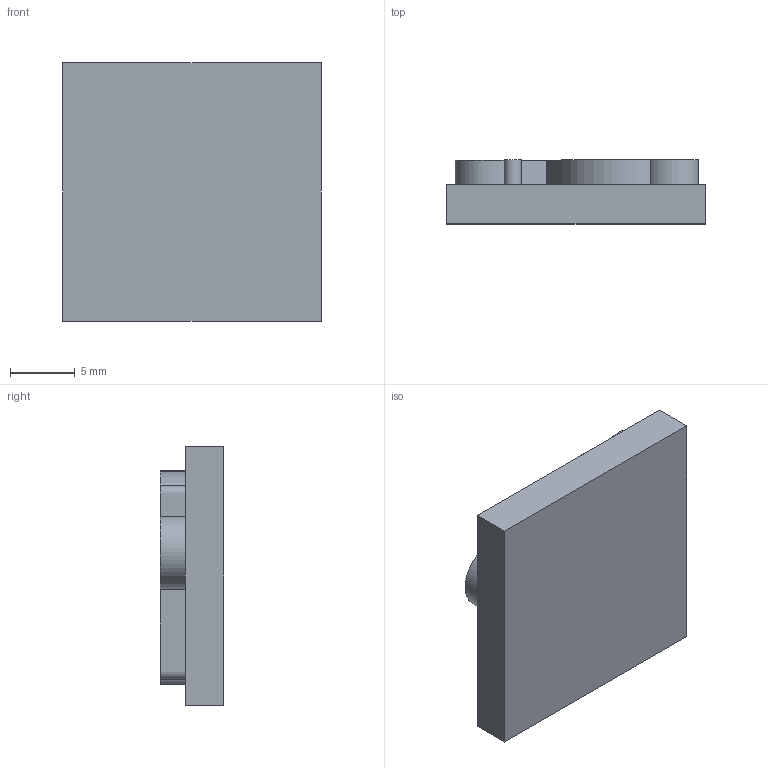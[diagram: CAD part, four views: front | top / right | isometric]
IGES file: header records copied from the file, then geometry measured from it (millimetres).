
Global section: file name: no.4003; native system: unknown; preprocessor: unknown; author: miku.hasebe; organization: unknown; date: 20180820.112651; units: millimetre
Bounding box: 20 x 4.94 x 20 mm (x, y, z)
Volume: 1353.1 mm3; surface area: 1448.9 mm2
Topology: 4 solids, 4 shells, 45 faces, 111 edges, 74 vertices
Faces by surface type: bspline 45
